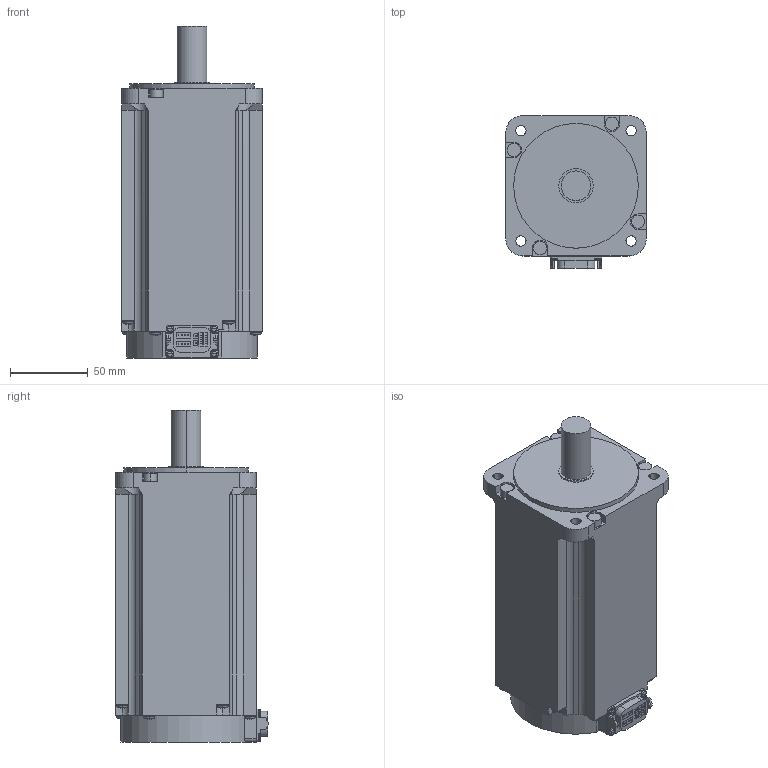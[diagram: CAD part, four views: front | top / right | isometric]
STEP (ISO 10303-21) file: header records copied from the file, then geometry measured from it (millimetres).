
FILE_DESCRIPTION((''),'2;1');
FILE_NAME('PRT0003','2019-01-18T',('XE90682'),(''),'CREO PARAMETRIC BY PTC INC, 2016380','CREO PARAMETRIC BY PTC INC, 2016380','');
FILE_SCHEMA(('CONFIG_CONTROL_DESIGN'));
Length unit declared in the file: millimetre
Products named in the file (1): PRT0003
Bounding box: 90 x 97.65 x 212.9 mm (x, y, z)
Volume: 1229328.1 mm3; surface area: 79603.2 mm2
Topology: 1 solids, 1 shells, 397 faces, 1028 edges, 652 vertices
Faces by surface type: plane 224, cylinder 117, torus 24, sphere 24, cone 8
Entity records: 12071 total; most frequent: CARTESIAN_POINT 2181, DIRECTION 2101, ORIENTED_EDGE 2008, EDGE_CURVE 1004, AXIS2_PLACEMENT_3D 716, VECTOR 669, LINE 669, VERTEX_POINT 652
